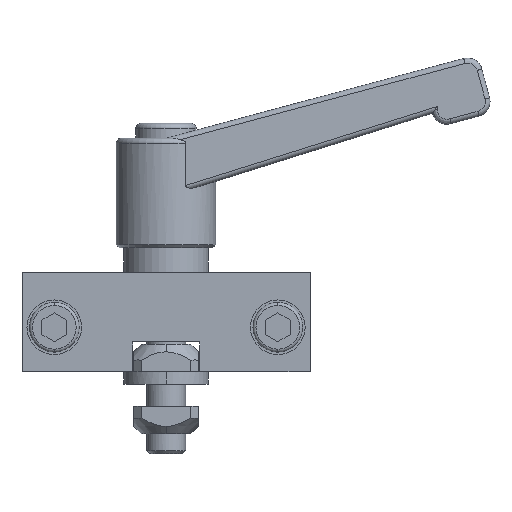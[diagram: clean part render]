
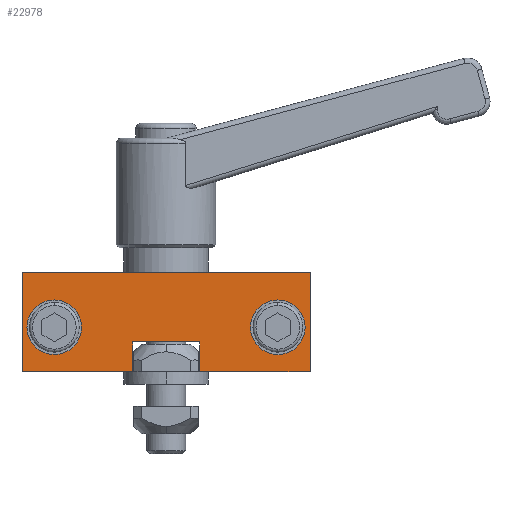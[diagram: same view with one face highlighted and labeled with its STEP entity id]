
A CAD part, front view. The second image highlights one B-rep face of the part: STEP entity #22978.
In plain terms, the highlighted planar face has unit normal (0, -1, 0).
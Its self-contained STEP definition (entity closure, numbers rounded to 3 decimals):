
#174 = FACE_BOUND ( 'NONE', #26326, .T. ) ;
#579 = CARTESIAN_POINT ( 'NONE',  ( -22.5, -20., 8.95 ) ) ;
#622 = ORIENTED_EDGE ( 'NONE', *, *, #11044, .T. ) ;
#804 = LINE ( 'NONE', #29016, #13683 ) ;
#810 = EDGE_CURVE ( 'NONE', #17704, #8683, #31243, .T. ) ;
#833 = VECTOR ( 'NONE', #20671, 1000. ) ;
#1329 = VERTEX_POINT ( 'NONE', #26849 ) ;
#1736 = EDGE_CURVE ( 'NONE', #8688, #1329, #18507, .T. ) ;
#1786 = CARTESIAN_POINT ( 'NONE',  ( 29., -20., 10. ) ) ;
#2427 = ORIENTED_EDGE ( 'NONE', *, *, #22568, .T. ) ;
#2465 = DIRECTION ( 'NONE',  ( 0., 1., 0. ) ) ;
#2753 = EDGE_CURVE ( 'NONE', #12998, #1329, #804, .T. ) ;
#3128 = ORIENTED_EDGE ( 'NONE', *, *, #17302, .F. ) ;
#3172 = VERTEX_POINT ( 'NONE', #21022 ) ;
#3208 = CARTESIAN_POINT ( 'NONE',  ( 28., -20., 8.95 ) ) ;
#3532 = DIRECTION ( 'NONE',  ( 1., 0., 0. ) ) ;
#3697 = LINE ( 'NONE', #16405, #30570 ) ;
#4069 = EDGE_CURVE ( 'NONE', #8688, #3172, #14771, .T. ) ;
#4244 = VERTEX_POINT ( 'NONE', #12083 ) ;
#4359 = CARTESIAN_POINT ( 'NONE',  ( -6.75, -20., 6. ) ) ;
#4400 = DIRECTION ( 'NONE',  ( 0., 1., 0. ) ) ;
#4819 = DIRECTION ( 'NONE',  ( 0., 1., 0. ) ) ;
#6247 = CIRCLE ( 'NONE', #22790, 5.5 ) ;
#6284 = EDGE_LOOP ( 'NONE', ( #30301, #2427, #10700, #3128, #17827, #15064, #22348, #21323 ) ) ;
#7850 = EDGE_LOOP ( 'NONE', ( #15352, #27850 ) ) ;
#8238 = CIRCLE ( 'NONE', #23170, 5.5 ) ;
#8683 = VERTEX_POINT ( 'NONE', #30074 ) ;
#8688 = VERTEX_POINT ( 'NONE', #14905 ) ;
#8820 = AXIS2_PLACEMENT_3D ( 'NONE', #15353, #2465, #28175 ) ;
#9061 = LINE ( 'NONE', #22088, #26901 ) ;
#9437 = CARTESIAN_POINT ( 'NONE',  ( -6.75, -20., 0. ) ) ;
#10146 = VECTOR ( 'NONE', #11961, 1000. ) ;
#10194 = CARTESIAN_POINT ( 'NONE',  ( 0., -20., 10. ) ) ;
#10494 = CARTESIAN_POINT ( 'NONE',  ( -29., -20., 10. ) ) ;
#10700 = ORIENTED_EDGE ( 'NONE', *, *, #11957, .T. ) ;
#11044 = EDGE_CURVE ( 'NONE', #28514, #31159, #8238, .T. ) ;
#11135 = DIRECTION ( 'NONE',  ( -1., 0., 0. ) ) ;
#11910 = VERTEX_POINT ( 'NONE', #4359 ) ;
#11957 = EDGE_CURVE ( 'NONE', #12370, #24402, #9061, .T. ) ;
#11961 = DIRECTION ( 'NONE',  ( 0., 0., 1. ) ) ;
#11969 = DIRECTION ( 'NONE',  ( 0., 0., -1. ) ) ;
#12083 = CARTESIAN_POINT ( 'NONE',  ( 29., -20., 0. ) ) ;
#12288 = VECTOR ( 'NONE', #11135, 1000. ) ;
#12370 = VERTEX_POINT ( 'NONE', #22175 ) ;
#12998 = VERTEX_POINT ( 'NONE', #9437 ) ;
#13294 = DIRECTION ( 'NONE',  ( 1., 0., 0. ) ) ;
#13683 = VECTOR ( 'NONE', #26018, 1000. ) ;
#14479 = LINE ( 'NONE', #21822, #10146 ) ;
#14771 = LINE ( 'NONE', #24605, #19545 ) ;
#14905 = CARTESIAN_POINT ( 'NONE',  ( -29., -20., 20. ) ) ;
#14996 = EDGE_CURVE ( 'NONE', #8683, #17704, #17176, .T. ) ;
#15064 = ORIENTED_EDGE ( 'NONE', *, *, #4069, .F. ) ;
#15237 = PLANE ( 'NONE',  #27912 ) ;
#15352 = ORIENTED_EDGE ( 'NONE', *, *, #810, .T. ) ;
#15353 = CARTESIAN_POINT ( 'NONE',  ( -22.5, -20., 8.95 ) ) ;
#15563 = FACE_OUTER_BOUND ( 'NONE', #6284, .T. ) ;
#16145 = AXIS2_PLACEMENT_3D ( 'NONE', #579, #18107, #13294 ) ;
#16268 = EDGE_CURVE ( 'NONE', #12998, #11910, #14479, .T. ) ;
#16405 = CARTESIAN_POINT ( 'NONE',  ( 0., -20., 6. ) ) ;
#17132 = LINE ( 'NONE', #1786, #31669 ) ;
#17176 = CIRCLE ( 'NONE', #16145, 5.5 ) ;
#17302 = EDGE_CURVE ( 'NONE', #4244, #24402, #28986, .T. ) ;
#17704 = VERTEX_POINT ( 'NONE', #20206 ) ;
#17827 = ORIENTED_EDGE ( 'NONE', *, *, #32802, .F. ) ;
#17876 = DIRECTION ( 'NONE',  ( 1., 0., 0. ) ) ;
#18036 = FACE_BOUND ( 'NONE', #7850, .T. ) ;
#18107 = DIRECTION ( 'NONE',  ( 0., 1., 0. ) ) ;
#18507 = LINE ( 'NONE', #10494, #833 ) ;
#19545 = VECTOR ( 'NONE', #17876, 1000. ) ;
#19856 = CARTESIAN_POINT ( 'NONE',  ( 22.5, -20., 8.95 ) ) ;
#19917 = ORIENTED_EDGE ( 'NONE', *, *, #25068, .T. ) ;
#20206 = CARTESIAN_POINT ( 'NONE',  ( -17., -20., 8.95 ) ) ;
#20671 = DIRECTION ( 'NONE',  ( 0., 0., -1. ) ) ;
#21022 = CARTESIAN_POINT ( 'NONE',  ( 29., -20., 20. ) ) ;
#21323 = ORIENTED_EDGE ( 'NONE', *, *, #2753, .F. ) ;
#21822 = CARTESIAN_POINT ( 'NONE',  ( -6.75, -20., 6.5 ) ) ;
#22088 = CARTESIAN_POINT ( 'NONE',  ( 6.75, -20., 6.5 ) ) ;
#22175 = CARTESIAN_POINT ( 'NONE',  ( 6.75, -20., 6. ) ) ;
#22348 = ORIENTED_EDGE ( 'NONE', *, *, #1736, .T. ) ;
#22453 = CARTESIAN_POINT ( 'NONE',  ( 6.75, -20., 0. ) ) ;
#22568 = EDGE_CURVE ( 'NONE', #11910, #12370, #3697, .T. ) ;
#22790 = AXIS2_PLACEMENT_3D ( 'NONE', #19856, #4819, #27547 ) ;
#22978 = ADVANCED_FACE ( 'NONE', ( #174, #18036, #15563 ), #15237, .F. ) ;
#23170 = AXIS2_PLACEMENT_3D ( 'NONE', #24783, #4400, #29462 ) ;
#24402 = VERTEX_POINT ( 'NONE', #22453 ) ;
#24605 = CARTESIAN_POINT ( 'NONE',  ( 0., -20., 20. ) ) ;
#24783 = CARTESIAN_POINT ( 'NONE',  ( 22.5, -20., 8.95 ) ) ;
#25068 = EDGE_CURVE ( 'NONE', #31159, #28514, #6247, .T. ) ;
#26018 = DIRECTION ( 'NONE',  ( -1., 0., 0. ) ) ;
#26113 = CARTESIAN_POINT ( 'NONE',  ( 17., -20., 8.95 ) ) ;
#26326 = EDGE_LOOP ( 'NONE', ( #622, #19917 ) ) ;
#26849 = CARTESIAN_POINT ( 'NONE',  ( -29., -20., 0. ) ) ;
#26901 = VECTOR ( 'NONE', #32290, 1000. ) ;
#27547 = DIRECTION ( 'NONE',  ( 1., 0., 0. ) ) ;
#27850 = ORIENTED_EDGE ( 'NONE', *, *, #14996, .T. ) ;
#27912 = AXIS2_PLACEMENT_3D ( 'NONE', #10194, #28057, #30740 ) ;
#28057 = DIRECTION ( 'NONE',  ( 0., 1., 0. ) ) ;
#28175 = DIRECTION ( 'NONE',  ( 1., 0., 0. ) ) ;
#28514 = VERTEX_POINT ( 'NONE', #3208 ) ;
#28821 = CARTESIAN_POINT ( 'NONE',  ( 0., -20., 0. ) ) ;
#28986 = LINE ( 'NONE', #28821, #12288 ) ;
#29016 = CARTESIAN_POINT ( 'NONE',  ( 0., -20., 0. ) ) ;
#29462 = DIRECTION ( 'NONE',  ( 1., 0., 0. ) ) ;
#30074 = CARTESIAN_POINT ( 'NONE',  ( -28., -20., 8.95 ) ) ;
#30301 = ORIENTED_EDGE ( 'NONE', *, *, #16268, .T. ) ;
#30570 = VECTOR ( 'NONE', #3532, 1000. ) ;
#30740 = DIRECTION ( 'NONE',  ( 1., 0., 0. ) ) ;
#31159 = VERTEX_POINT ( 'NONE', #26113 ) ;
#31243 = CIRCLE ( 'NONE', #8820, 5.5 ) ;
#31669 = VECTOR ( 'NONE', #11969, 1000. ) ;
#32290 = DIRECTION ( 'NONE',  ( 0., 0., -1. ) ) ;
#32802 = EDGE_CURVE ( 'NONE', #3172, #4244, #17132, .T. ) ;
